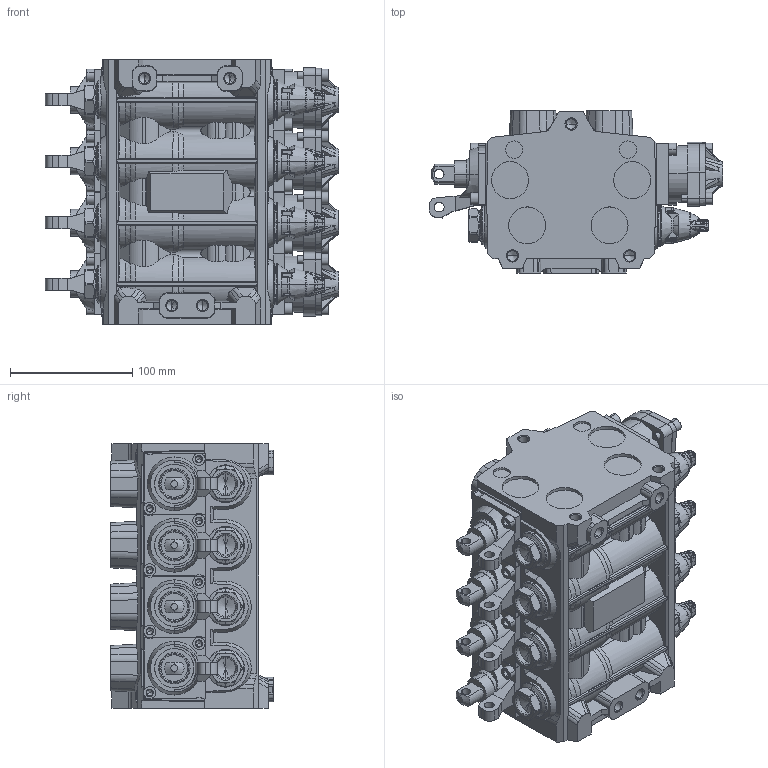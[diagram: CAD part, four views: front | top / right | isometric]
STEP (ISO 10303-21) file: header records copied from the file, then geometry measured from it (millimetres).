
FILE_DESCRIPTION (( 'STEP AP203' ), '1' );
FILE_NAME ('S-V3264B.STEP', '2018-05-22T08:08:22', ( '' ), ( '' ), 'SwSTEP 2.0', 'SolidWorks 2018', '' );
FILE_SCHEMA (( 'CONFIG_CONTROL_DESIGN' ));
Products named in the file (1): S-V3264B
Bounding box: 240 x 133 x 216.9 mm (x, y, z)
Surface area: 402189.9 mm2 (no closed solid volume)
Topology: 0 solids, 65 shells, 5889 faces, 14836 edges, 8834 vertices
Faces by surface type: bspline 1776, plane 1726, cylinder 1467, cone 632, torus 216, sphere 72
Entity records: 251725 total; most frequent: CARTESIAN_POINT 130864, ORIENTED_EDGE 28384, DIRECTION 20565, EDGE_CURVE 14496, VERTEX_POINT 8834, AXIS2_PLACEMENT_3D 7670, EDGE_LOOP 6158, ADVANCED_FACE 5889
